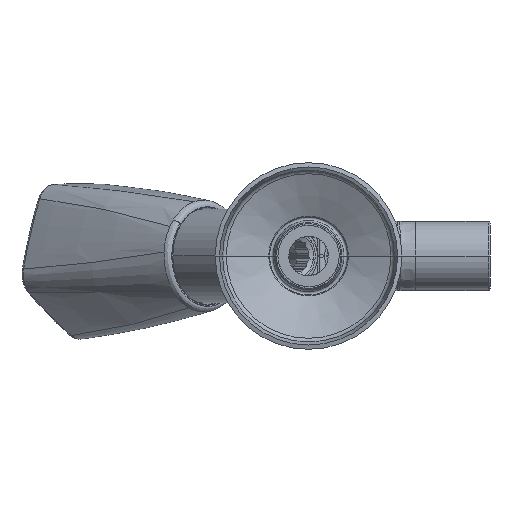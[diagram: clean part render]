
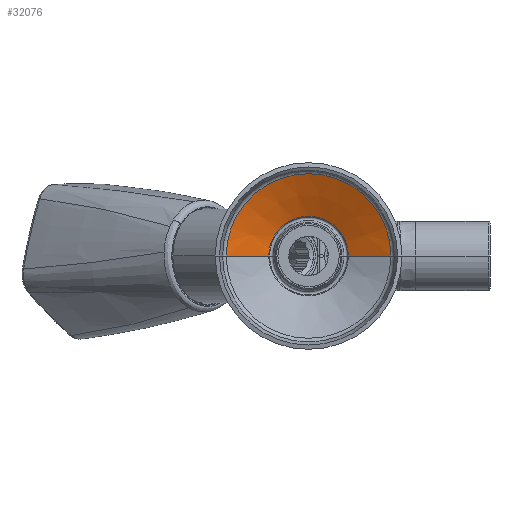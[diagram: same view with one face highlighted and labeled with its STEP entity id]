
A CAD part, left-side view. The second image highlights one B-rep face of the part: STEP entity #32076.
In plain terms, the highlighted conical face has half-angle 65 degrees and reference radius 16.358 mm.
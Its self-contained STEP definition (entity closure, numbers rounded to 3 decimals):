
#31524=CARTESIAN_POINT('',(0.,9.518,0.));
#31525=DIRECTION('',(0.,-1.,0.));
#31526=DIRECTION('',(1.,0.,0.));
#31527=AXIS2_PLACEMENT_3D('',#31524,#31525,#31526);
#31529=DIRECTION('',(0.906,-0.423,0.));
#31530=VECTOR('',#31529,12.552);
#31531=CARTESIAN_POINT('',(10.671,9.518,0.));
#31532=LINE('',#31531,#31530);
#31533=DIRECTION('',(-0.906,-0.423,0.));
#31534=VECTOR('',#31533,12.552);
#31535=CARTESIAN_POINT('',(-10.671,9.518,0.));
#31536=LINE('',#31535,#31534);
#31557=CARTESIAN_POINT('',(0.,4.214,0.));
#31558=DIRECTION('',(0.,-1.,0.));
#31559=DIRECTION('',(1.,0.,0.));
#31560=AXIS2_PLACEMENT_3D('',#31557,#31558,#31559);
#31610=CARTESIAN_POINT('',(10.671,9.518,0.));
#31611=VERTEX_POINT('',#31610);
#31612=CARTESIAN_POINT('',(22.046,4.214,0.));
#31613=VERTEX_POINT('',#31612);
#31646=CARTESIAN_POINT('',(-10.671,9.518,0.));
#31647=VERTEX_POINT('',#31646);
#31648=CARTESIAN_POINT('',(-22.046,4.214,0.));
#31649=VERTEX_POINT('',#31648);
#32062=CARTESIAN_POINT('',(0.,6.866,0.));
#32063=DIRECTION('',(0.,-1.,0.));
#32064=DIRECTION('',(-1.,0.,0.));
#32065=AXIS2_PLACEMENT_3D('',#32062,#32063,#32064);
#32066=CONICAL_SURFACE('',#32065,16.358,65.);
#32068=ORIENTED_EDGE('',*,*,#32067,.F.);
#32069=ORIENTED_EDGE('',*,*,#32057,.T.);
#32071=ORIENTED_EDGE('',*,*,#32070,.T.);
#32073=ORIENTED_EDGE('',*,*,#32072,.F.);
#32074=EDGE_LOOP('',(#32068,#32069,#32071,#32073));
#32075=FACE_OUTER_BOUND('',#32074,.F.);
#32076=ADVANCED_FACE('',(#32075),#32066,.F.);
#31528=CIRCLE('',#31527,10.671);
#31561=CIRCLE('',#31560,22.046);
#32057=EDGE_CURVE('',#31611,#31647,#31528,.T.);
#32067=EDGE_CURVE('',#31611,#31613,#31532,.T.);
#32070=EDGE_CURVE('',#31647,#31649,#31536,.T.);
#32072=EDGE_CURVE('',#31613,#31649,#31561,.T.);
